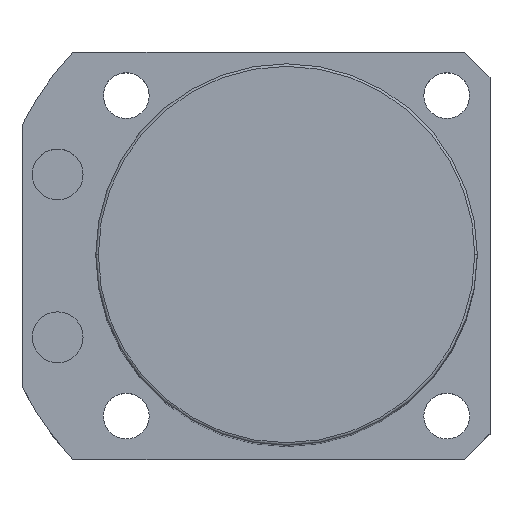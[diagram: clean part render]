
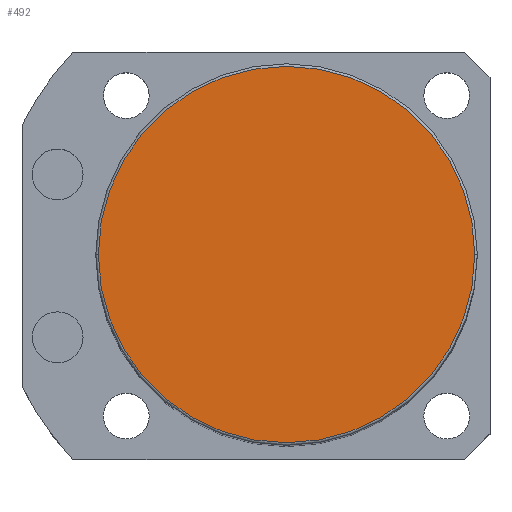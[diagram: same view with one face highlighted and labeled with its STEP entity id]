
A CAD part, top view. The second image highlights one B-rep face of the part: STEP entity #492.
In plain terms, the highlighted planar face has unit normal (0, 0, 1).
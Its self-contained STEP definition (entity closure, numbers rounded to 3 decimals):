
#492 = ADVANCED_FACE ( 'NONE', ( #4225 ), #3395, .T. ) ;
#549 = VERTEX_POINT ( 'NONE', #5842 ) ;
#954 = ORIENTED_EDGE ( 'NONE', *, *, #6242, .T. ) ;
#1180 = DIRECTION ( 'NONE',  ( 0., 0., 1. ) ) ;
#1365 = EDGE_CURVE ( 'NONE', #2096, #549, #4783, .T. ) ;
#1735 = DIRECTION ( 'NONE',  ( 0., 0., 1. ) ) ;
#1866 = DIRECTION ( 'NONE',  ( 1., 0., 0. ) ) ;
#2096 = VERTEX_POINT ( 'NONE', #3739 ) ;
#2140 = ORIENTED_EDGE ( 'NONE', *, *, #1365, .T. ) ;
#3031 = AXIS2_PLACEMENT_3D ( 'NONE', #5224, #1180, #5296 ) ;
#3395 = PLANE ( 'NONE',  #6463 ) ;
#3739 = CARTESIAN_POINT ( 'NONE',  ( 37., 0., 165.5 ) ) ;
#4139 = EDGE_LOOP ( 'NONE', ( #2140, #954 ) ) ;
#4225 = FACE_OUTER_BOUND ( 'NONE', #4139, .T. ) ;
#4578 = AXIS2_PLACEMENT_3D ( 'NONE', #6216, #5668, #4653 ) ;
#4653 = DIRECTION ( 'NONE',  ( 1., 0., 0. ) ) ;
#4783 = CIRCLE ( 'NONE', #4578, 37. ) ;
#4946 = CARTESIAN_POINT ( 'NONE',  ( 0., 0., 165.5 ) ) ;
#5224 = CARTESIAN_POINT ( 'NONE',  ( 0., 0., 165.5 ) ) ;
#5296 = DIRECTION ( 'NONE',  ( 1., 0., 0. ) ) ;
#5668 = DIRECTION ( 'NONE',  ( 0., 0., 1. ) ) ;
#5842 = CARTESIAN_POINT ( 'NONE',  ( -37., 0., 165.5 ) ) ;
#6107 = CIRCLE ( 'NONE', #3031, 37. ) ;
#6216 = CARTESIAN_POINT ( 'NONE',  ( 0., 0., 165.5 ) ) ;
#6242 = EDGE_CURVE ( 'NONE', #549, #2096, #6107, .T. ) ;
#6463 = AXIS2_PLACEMENT_3D ( 'NONE', #4946, #1735, #1866 ) ;
